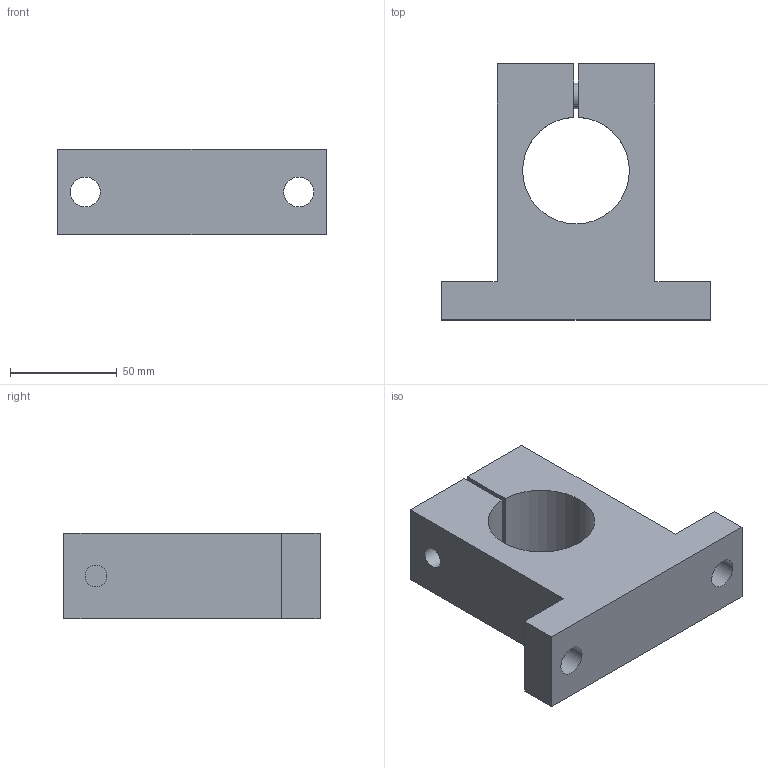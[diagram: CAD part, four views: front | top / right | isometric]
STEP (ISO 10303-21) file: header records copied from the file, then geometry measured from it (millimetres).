
FILE_DESCRIPTION(('STEP AP203'),'1');
FILE_NAME('//192.168.1.1/share/s-4 技術開発/s-4-14_個人別フォルダ/橋詰/09_CAD_DATA/3D/HP用/3Ｄモデル/SN-A/SN-50A.step','2021-09-16T02:47:38',(' '),(' '),'Spatial InterOp 3D',' ',' ');
FILE_SCHEMA(('CONFIG_CONTROL_DESIGN'));
Length unit declared in the file: millimetre
Products named in the file (2): 1; 2
Bounding box: 126 x 120 x 40 mm (x, y, z)
Volume: 303572.3 mm3; surface area: 49963.6 mm2
Topology: 2 solids, 2 shells, 34 faces, 84 edges, 57 vertices
Faces by surface type: plane 24, cylinder 9, cone 1
Full cylindrical faces by diameter (mm): 10.25 x1, 12 x2, 14 x3, 18 x1, 20 x1
Entity records: 1054 total; most frequent: CARTESIAN_POINT 191, DIRECTION 158, ORIENTED_EDGE 140, EDGE_CURVE 70, EDGE_LOOP 54, AXIS2_PLACEMENT_3D 53, VERTEX_POINT 52, LINE 52
